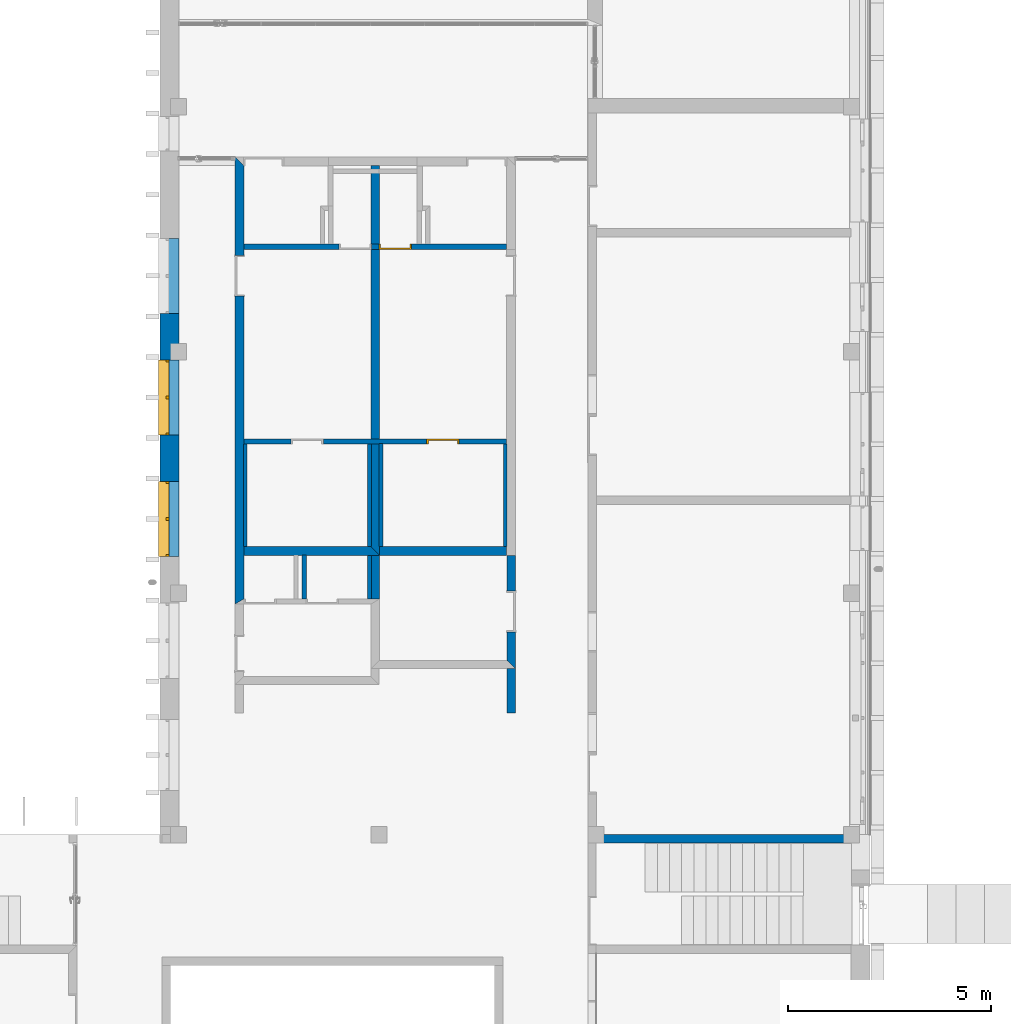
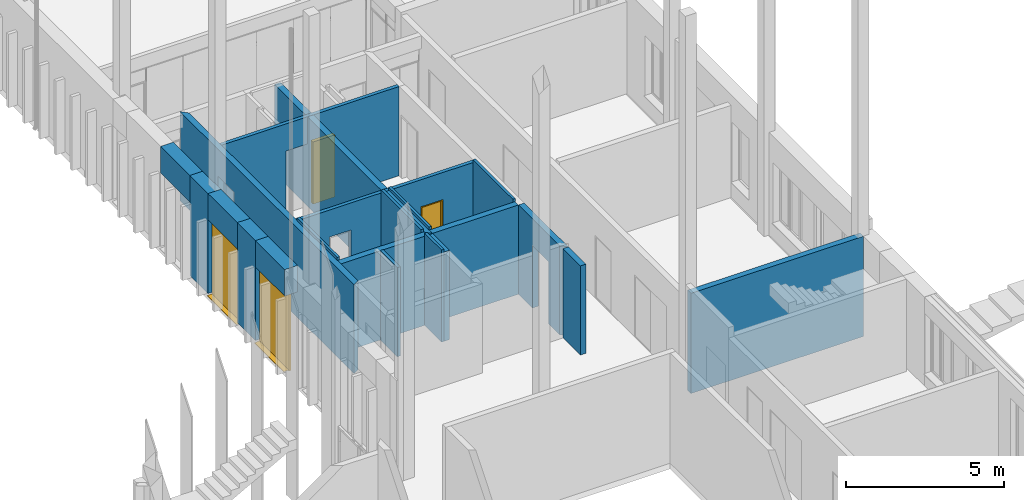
# One storey, part 15 of 89: 21 walls, 2 doors, 2 windows, 9 openings.
"""IFC2X3 building model written with IfcOpenShell, lengths in millimetres."""

from ifc_helpers import new_model, entity, si_unit, converted_unit, derived_unit, money_unit, direction, frame, origin_with_axes, origin_2d_with_axis, place, context, subcontext, project, spatial, polyline, rectangle, outline, extrude, open_shell, faceted_brep, surface_model, source, transform, mapped, material, layer, layer_set, layer_usage, type_object, element, fill, save


model = new_model("IFC2X3")

# Units and contexts
model_context = context("Model", 3, precision=0.01, world=origin_with_axes(), true_north=direction((0.0, 1.0)))
body_context = subcontext(model_context, "Body", "Model", "MODEL_VIEW")
ifc_project = project(units=[si_unit("LENGTHUNIT", "METRE", prefix="MILLI"), si_unit("AREAUNIT", "SQUARE_METRE"), si_unit("VOLUMEUNIT", "CUBIC_METRE"), converted_unit("PLANEANGLEUNIT", "DEGREE", entity("IfcPlaneAngleMeasure", 0.0174532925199), si_unit("PLANEANGLEUNIT", "RADIAN"), dimensions=[0, 0, 0, 0, 0, 0, 0]), si_unit("SOLIDANGLEUNIT", "STERADIAN"), money_unit("EUR"), converted_unit("TIMEUNIT", "Year", entity("IfcTimeMeasure", 31556926.0), si_unit("TIMEUNIT", "SECOND"), dimensions=[0, 0, 1, 0, 0, 0, 0]), si_unit("MASSUNIT", "GRAM", prefix="KILO"), si_unit("THERMODYNAMICTEMPERATUREUNIT", "DEGREE_CELSIUS"), si_unit("LUMINOUSINTENSITYUNIT", "LUMEN"), si_unit("ENERGYUNIT", "JOULE", prefix="MEGA"), derived_unit("THERMALCONDUCTANCEUNIT", [(si_unit("POWERUNIT", "WATT"), 1), (si_unit("LENGTHUNIT", "METRE"), -1), (si_unit("THERMODYNAMICTEMPERATUREUNIT", "KELVIN"), -1)]), derived_unit("SPECIFICHEATCAPACITYUNIT", [(si_unit("ENERGYUNIT", "JOULE"), 1), (si_unit("MASSUNIT", "GRAM", prefix="KILO"), -1), (si_unit("THERMODYNAMICTEMPERATUREUNIT", "KELVIN"), -1)]), derived_unit("MASSDENSITYUNIT", [(si_unit("MASSUNIT", "GRAM", prefix="KILO"), 1), (si_unit("VOLUMEUNIT", "CUBIC_METRE"), -1)])], contexts=[model_context])

# Site, building, storey
site_placement = place(None, origin_with_axes())
site = spatial("IfcSite", under=ifc_project, at=site_placement, Name="Puškini 31, Narva", CompositionType="ELEMENT")
building_placement = place(site_placement, origin_with_axes())
building = spatial("IfcBuilding", under=site, at=building_placement, Name="Narva Riigigümnaasium", CompositionType="ELEMENT")
storey_placement = place(building_placement, frame((0.0, 0.0, -3300.0), z_axis=(0.0, 0.0, 1.0), x_axis=(1.0, 0.0, 0.0)))
storey = spatial("IfcBuildingStorey", under=building, at=storey_placement, Name="1.korrus -3.3", CompositionType="ELEMENT", Elevation=-3300.0)

# Wall, opening
ifc_material_1 = material(Name="fassaadiplaat")
ifc_layer_1 = layer(ifc_material_1, 8.0, ventilated="UNKNOWN")
ifc_material_2 = material(Name="Salto-roovitus")
ifc_layer_2 = layer(ifc_material_2, 50.0, ventilated="UNKNOWN")
ifc_material_3 = material(Name="Salto-PIR soojustus")
ifc_layer_3 = layer(ifc_material_3, 50.0, ventilated="UNKNOWN")
ifc_layer_4 = layer(ifc_material_3, 150.0, ventilated="UNKNOWN")
ifc_material_4 = material(Name="Betoon element")
ifc_layer_5 = layer(ifc_material_4, 200.0, ventilated="UNKNOWN")
ifc_material_5 = material(Name="Salto-siseviimistlus-seinad")
ifc_layer_6 = layer(ifc_material_5, 10.0, ventilated="UNKNOWN")
ifc_layer_set_1 = layer_set([ifc_layer_1, ifc_layer_2, ifc_layer_3, ifc_layer_4, ifc_layer_5, ifc_layer_6], Name="G-VS-01")
ifc_layer_usage_1 = layer_usage(ifc_layer_set_1, "AXIS2", "POSITIVE", -458.0)
wall_type_1 = type_object("IfcWallType", Name="G-VS-01 468", PredefinedType="NOTDEFINED")
wall_1_placement = place(storey_placement, frame((37400.0000002, 238709.212578, 0.0), z_axis=(0.0, 0.0, 1.0), x_axis=(0.0, -1.0, 0.0)))
wall_1 = element("IfcWallStandardCase", 1, at=wall_1_placement, inside=storey, type_object=wall_type_1, material=ifc_layer_usage_1, Name="Välissein", context=body_context, shape_type="SweptSolid", body=[
    extrude(outline(polyline([(0.0, -458.0), (1850.0, -458.0), (1850.0, 10.0), (0.0, 10.0), (0.0, -458.0)])), origin_with_axes(), (0.0, 0.0, 1.0), 3959.99999955),
])
opening_1_placement = place(wall_1_placement, frame((925.0, 0.0, 0.0), z_axis=(0.0, 0.0, 1.0), x_axis=(1.0, 0.0, 0.0)))
element("IfcOpeningElement", 2, at=opening_1_placement, cuts=wall_1, Name="G-A-30", context=body_context, shape_type="SweptSolid", body=[
    extrude(rectangle(XDim=1850.0, YDim=2940.0, at=origin_2d_with_axis()), frame((0.0, -308.0, 1470.0), z_axis=(0.0, 1.0, 0.0), x_axis=(-1.0, 0.0, 0.0)), (0.0, 0.0, 1.0), 786.0),
    extrude(rectangle(XDim=1850.0, YDim=2940.0, at=origin_2d_with_axis()), frame((0.0, -308.0, 1470.0), z_axis=(0.0, -1.0, 0.0), x_axis=(-1.0, 0.0, 0.0)), (0.0, 0.0, 1.0), 618.0),
])

# Wall, opening, window
wall_2_placement = place(storey_placement, frame((37400.0000002, 235709.212578, 0.0), z_axis=(0.0, 0.0, 1.0), x_axis=(0.0, -1.0, 0.0)))
wall_2 = element("IfcWallStandardCase", 3, at=wall_2_placement, inside=storey, type_object=wall_type_1, material=ifc_layer_usage_1, Name="Välissein", context=body_context, shape_type="SweptSolid", body=[
    extrude(outline(polyline([(0.0, -458.0), (1850.0, -458.0), (1850.0, 10.0), (0.0, 10.0), (0.0, -458.0)])), origin_with_axes(), (0.0, 0.0, 1.0), 3959.99999955),
])
opening_2_placement = place(wall_2_placement, frame((925.0, 0.0, 0.0), z_axis=(0.0, 0.0, 1.0), x_axis=(1.0, 0.0, 0.0)))
opening_2 = element("IfcOpeningElement", 4, at=opening_2_placement, cuts=wall_2, Name="G-A-30", context=body_context, shape_type="SweptSolid", body=[
    extrude(rectangle(XDim=1850.0, YDim=2940.0, at=origin_2d_with_axis()), frame((0.0, -308.0, 1470.0), z_axis=(0.0, -1.0, 0.0), x_axis=(1.0, 0.0, 0.0)), (0.0, 0.0, -1.0), 786.0),
    extrude(rectangle(XDim=1850.0, YDim=2940.0, at=origin_2d_with_axis()), frame((0.0, -308.0, 1470.0), z_axis=(0.0, 1.0, 0.0), x_axis=(1.0, 0.0, 0.0)), (0.0, 0.0, -1.0), 618.0),
])
window_style = type_object("IfcWindowStyle", Name="Horizontal Multi-Sash Window 23", ConstructionType="NOTDEFINED", OperationType="DOUBLE_PANEL_VERTICAL", ParameterTakesPrecedence=False, Sizeable=False)
shared_shape_1 = source(origin_with_axes(), body_context, "Body", "SurfaceModel", [
    surface_model("IfcShellBasedSurfaceModel", [(-925.0, -76.0, 50.0), (-925.0, -76.0, 40.0), (925.0, -76.0, 40.0), (925.0, -76.0, 50.0), (-925.0, -255.0, 28.0), (925.0, -255.0, 28.0), (-925.0, -255.0, 8.0), (925.0, -255.0, 8.0), (-925.0, -245.0, 18.0), (925.0, -245.0, 18.0)], [open_shell([[[0, 1, 2, 3]], [[1, 4, 5, 2]], [[4, 6, 7, 5]], [[6, 8, 9, 7]]])]),
    faceted_brep([(-875.0, -75.0, 2890.0), (-875.0, 0.0, 2890.0), (-925.0, 0.0, 2890.0), (-925.0, -75.0, 2890.0), (-875.0, -75.0, 50.0), (-875.0, 0.0, 50.0), (-925.0, 0.0, 50.0), (-925.0, -75.0, 50.0)], [[[0, 1, 2, 3]], [[4, 5, 1, 0]], [[1, 5, 6, 2]], [[3, 2, 6, 7]], [[0, 3, 7, 4]], [[7, 6, 5, 4]]]),
    faceted_brep([(875.0, -75.0, 50.0), (875.0, 0.0, 50.0), (925.0, 0.0, 50.0), (925.0, -75.0, 50.0), (875.0, -75.0, 2890.0), (875.0, 0.0, 2890.0), (925.0, 0.0, 2890.0), (925.0, -75.0, 2890.0)], [[[0, 1, 2, 3]], [[4, 5, 1, 0]], [[1, 5, 6, 2]], [[3, 2, 6, 7]], [[0, 3, 7, 4]], [[7, 6, 5, 4]]]),
    faceted_brep([(875.0, -75.0, 2890.0), (875.0, 0.0, 2890.0), (925.0, 0.0, 2890.0), (925.0, -75.0, 2890.0), (37.5, -75.0, 2890.0), (37.5, 0.0, 2890.0), (-37.5, 0.0, 2890.0), (-875.0, 0.0, 2890.0), (-925.0, 0.0, 2890.0), (-925.0, 0.0, 2940.0), (925.0, 0.0, 2940.0), (925.0, -75.0, 2940.0), (-925.0, -75.0, 2940.0), (-925.0, -75.0, 2890.0), (-875.0, -75.0, 2890.0), (-37.5, -75.0, 2890.0)], [[[0, 1, 2, 3]], [[4, 5, 1, 0]], [[1, 5, 6, 7, 8, 9, 10, 2]], [[3, 2, 10, 11]], [[0, 3, 11, 12, 13, 14, 15, 4]], [[15, 6, 5, 4]], [[14, 7, 6, 15]], [[13, 8, 7, 14]], [[12, 9, 8, 13]], [[11, 10, 9, 12]]]),
    faceted_brep([(37.5, -75.0, 50.0), (37.5, 0.0, 50.0), (-37.5, 0.0, 50.0), (-37.5, -75.0, 50.0), (875.0, -75.0, 50.0), (875.0, 0.0, 50.0), (925.0, 0.0, 50.0), (925.0, 0.0, 0.0), (-925.0, 0.0, 0.0), (-925.0, 0.0, 50.0), (-875.0, 0.0, 50.0), (-875.0, -75.0, 50.0), (-925.0, -75.0, 50.0), (-925.0, -75.0, 0.0), (925.0, -75.0, 0.0), (925.0, -75.0, 50.0)], [[[0, 1, 2, 3]], [[4, 5, 1, 0]], [[1, 5, 6, 7, 8, 9, 10, 2]], [[3, 2, 10, 11]], [[0, 3, 11, 12, 13, 14, 15, 4]], [[15, 6, 5, 4]], [[14, 7, 6, 15]], [[13, 8, 7, 14]], [[12, 9, 8, 13]], [[11, 10, 9, 12]]]),
    faceted_brep([(37.5, -75.0, 50.0), (37.5, 0.0, 50.0), (37.5, 0.0, 2890.0), (37.5, -75.0, 2890.0), (-37.5, -75.0, 50.0), (-37.5, 0.0, 50.0), (-37.5, 0.0, 2890.0), (-37.5, -75.0, 2890.0)], [[[0, 1, 2, 3]], [[4, 5, 1, 0]], [[1, 5, 6, 2]], [[3, 2, 6, 7]], [[0, 3, 7, 4]], [[7, 6, 5, 4]]]),
    surface_model("IfcShellBasedSurfaceModel", [(-875.0, -80.0, 50.0), (-37.5, -80.0, 50.0), (-37.5, -80.0, 2890.0), (-875.0, -80.0, 2890.0)], [open_shell([[[0, 1, 2, 3]]])]),
    surface_model("IfcShellBasedSurfaceModel", [(-875.0, -60.0, 50.0), (-875.0, -60.0, 2890.0), (-37.5, -60.0, 2890.0), (-37.5, -60.0, 50.0)], [open_shell([[[0, 1, 2, 3]]])]),
    surface_model("IfcShellBasedSurfaceModel", [(37.5, -80.0, 50.0), (875.0, -80.0, 50.0), (875.0, -80.0, 2890.0), (37.5, -80.0, 2890.0)], [open_shell([[[0, 1, 2, 3]]])]),
    surface_model("IfcShellBasedSurfaceModel", [(37.5, -60.0, 50.0), (37.5, -60.0, 2890.0), (875.0, -60.0, 2890.0), (875.0, -60.0, 50.0)], [open_shell([[[0, 1, 2, 3]]])]),
])
window_1_placement = place(opening_2_placement, frame((-925.0, 0.0, 0.0), z_axis=(0.0, 0.0, 1.0), x_axis=(1.0, 0.0, 0.0)))
window_1 = element("IfcWindow", 5, at=window_1_placement, inside=storey, type_object=window_style, Name="G-A-30", ObjectType="WINDOW", OverallHeight=2940.0, OverallWidth=1850.0, context=body_context, shape_type="MappedRepresentation", body=[
    mapped(shared_shape_1, transform((925.0, -233.0, 0.0))),
])
fill(opening_2, window_1)

wall_3_placement = place(storey_placement, frame((37400.0000002, 232709.212578, 0.0), z_axis=(0.0, 0.0, 1.0), x_axis=(0.0, -1.0, 0.0)))
wall_3 = element("IfcWallStandardCase", 6, at=wall_3_placement, inside=storey, type_object=wall_type_1, material=ifc_layer_usage_1, Name="Välissein", context=body_context, shape_type="SweptSolid", body=[
    extrude(outline(polyline([(0.0, -458.0), (1850.0, -458.0), (1850.0, 10.0), (0.0, 10.0), (0.0, -458.0)])), origin_with_axes(), (0.0, 0.0, 1.0), 3959.99999955),
])
opening_3_placement = place(wall_3_placement, frame((925.0, 0.0, 0.0), z_axis=(0.0, 0.0, 1.0), x_axis=(1.0, 0.0, 0.0)))
opening_3 = element("IfcOpeningElement", 7, at=opening_3_placement, cuts=wall_3, Name="G-A-30", context=body_context, shape_type="SweptSolid", body=[
    extrude(rectangle(XDim=1850.0, YDim=2940.0, at=origin_2d_with_axis()), frame((0.0, -308.0, 1470.0), z_axis=(0.0, -1.0, 0.0), x_axis=(1.0, 0.0, 0.0)), (0.0, 0.0, -1.0), 786.0),
    extrude(rectangle(XDim=1850.0, YDim=2940.0, at=origin_2d_with_axis()), frame((0.0, -308.0, 1470.0), z_axis=(0.0, 1.0, 0.0), x_axis=(1.0, 0.0, 0.0)), (0.0, 0.0, -1.0), 618.0),
])
window_2_placement = place(opening_3_placement, frame((-925.0, 0.0, 0.0), z_axis=(0.0, 0.0, 1.0), x_axis=(1.0, 0.0, 0.0)))
window_2 = element("IfcWindow", 8, at=window_2_placement, inside=storey, type_object=window_style, Name="G-A-30", ObjectType="WINDOW", OverallHeight=2940.0, OverallWidth=1850.0, context=body_context, shape_type="MappedRepresentation", body=[
    mapped(shared_shape_1, transform((925.0, -233.0, 0.0))),
])
fill(opening_3, window_2)

# Walls
for number, where, z_axis, x_axis in (
    (9, (37400.0000002, 236859.212578, 100.0), (0.0, 0.0, 1.0), (0.0, -1.0, 0.0)),
    (10, (37400.0000002, 233859.212578, 100.0), (0.0, 0.0, 1.0), (0.0, -1.0, 0.0)),
):
    element("IfcWallStandardCase", number, at=place(storey_placement, frame(where, z_axis=z_axis, x_axis=x_axis)), inside=storey, type_object=wall_type_1, material=ifc_layer_usage_1, Name="Välissein", context=body_context, shape_type="SweptSolid", body=[
        extrude(outline(polyline([(0.0, -458.0), (1150.0, -458.0), (1150.0, 10.0), (0.0, 10.0), (0.0, -458.0)])), origin_with_axes(), (0.0, 0.0, 1.0), 3859.99999955),
    ])
ifc_material_6 = material(Name="siseviimistlus-seinad")
ifc_layer_7 = layer(ifc_material_6, 10.0, ventilated="UNKNOWN")
ifc_layer_set_2 = layer_set([ifc_layer_5, ifc_layer_7], Name="G-SS-01-02")
ifc_layer_usage_2 = layer_usage(ifc_layer_set_2, "AXIS2", "POSITIVE", 0.0)
wall_type_2 = type_object("IfcWallType", Name="G-SS-01-02 210", PredefinedType="NOTDEFINED")
wall_4_placement = place(storey_placement, frame((47499.9999993, 223800.0, -310.0), z_axis=(0.0, 0.0, 1.0), x_axis=(1.0, 0.0, 0.0)))
element("IfcWallStandardCase", 11, at=wall_4_placement, inside=storey, type_object=wall_type_2, material=ifc_layer_usage_2, Name="Sisesein", context=body_context, shape_type="SweptSolid", body=[
    extrude(outline(polyline([(199.999993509, 0.0), (6500.00000175, 0.0), (6500.00000175, 210.0), (199.999993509, 210.0), (199.999993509, 0.0)])), origin_with_axes(), (0.0, 0.0, 1.0), 3870.0),
])

# Wall, openings, door
ifc_layer_8 = layer(ifc_material_6, 15.0, ventilated="UNKNOWN")
ifc_material_7 = material(Name="kergbetoonplokk")
ifc_layer_9 = layer(ifc_material_7, 100.0, ventilated="UNKNOWN")
ifc_layer_set_3 = layer_set([ifc_layer_8, ifc_layer_9, ifc_layer_8], Name="G-SS-05-03")
ifc_layer_usage_3 = layer_usage(ifc_layer_set_3, "AXIS2", "POSITIVE", -15.0)
wall_type_3 = type_object("IfcWallType", Name="G-SS-05-03 130", PredefinedType="NOTDEFINED")
wall_5_placement = place(storey_placement, frame((39000.0000003, 238450.0, 0.0), z_axis=(0.0, 0.0, 1.0), x_axis=(1.0, 0.0, 0.0)))
wall_5 = element("IfcWallStandardCase", 12, at=wall_5_placement, inside=storey, type_object=wall_type_3, material=ifc_layer_usage_3, Name="Sisesein", context=body_context, shape_type="SweptSolid", body=[
    extrude(outline(polyline([(15.0, -15.0), (6494.99999989, -15.0), (6494.99999989, 115.0), (15.0, 115.0), (15.0, -15.0)])), origin_with_axes(), (0.0, 0.0, 1.0), 3445.0),
])
opening_4_placement = place(wall_5_placement, frame((3749.99999992, 0.0, 0.0), z_axis=(0.0, 0.0, 1.0), x_axis=(1.0, 0.0, 0.0)))
opening_4 = element("IfcOpeningElement", 13, at=opening_4_placement, cuts=wall_5, Name="G-SU-048", context=body_context, shape_type="SweptSolid", body=[
    extrude(rectangle(XDim=799.999999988, YDim=2400.0, at=origin_2d_with_axis()), frame((0.0, 130.0, 1200.0), z_axis=(0.0, -1.0, 0.0), x_axis=(-1.0, 0.0, 0.0)), (0.0, 0.0, 1.0), 390.0),
])
opening_5_placement = place(wall_5_placement, frame((2759.99999993, 0.0, 0.0), z_axis=(0.0, 0.0, 1.0), x_axis=(1.0, 0.0, 0.0)))
element("IfcOpeningElement", 14, at=opening_5_placement, cuts=wall_5, Name="G-SU-041", context=body_context, shape_type="SweptSolid", body=[
    extrude(rectangle(XDim=799.999999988, YDim=2400.0, at=origin_2d_with_axis()), frame((0.0, 130.0, 1200.0), z_axis=(0.0, 1.0, 0.0), x_axis=(1.0, 0.0, 0.0)), (0.0, 0.0, -1.0), 390.0),
])
door_style = type_object("IfcDoorStyle", Name="Door 23", ConstructionType="NOTDEFINED", OperationType="SINGLE_SWING_RIGHT", ParameterTakesPrecedence=False, Sizeable=False)
shared_shape_2 = source(origin_with_axes(), body_context, "Body", "Brep", [
    faceted_brep([(-359.999999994, -40.0, 0.0), (-359.999999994, -40.0, 2360.0), (-359.999999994, -130.0, 2360.0), (-359.999999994, -130.0, 0.0), (-371.999999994, -40.0, 2360.0), (-371.999999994, -40.0, 0.0), (-371.999999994, 0.0, 2360.0), (-399.999999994, 0.0, 2360.0), (-399.999999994, -130.0, 2360.0), (-399.999999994, -130.0, 0.0), (-399.999999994, 0.0, 0.0), (-371.999999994, 0.0, 0.0)], [[[0, 1, 2, 3]], [[4, 1, 0, 5]], [[4, 6, 7, 8, 2, 1]], [[3, 2, 8, 9]], [[5, 0, 3, 9, 10, 11]], [[6, 4, 5, 11]], [[6, 11, 10, 7]], [[10, 9, 8, 7]]]),
    faceted_brep([(371.999999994, -40.0, 2360.0), (359.999999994, -40.0, 2360.0), (359.999999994, -130.0, 2360.0), (399.999999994, -130.0, 2360.0), (399.999999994, 0.0, 2360.0), (371.999999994, 0.0, 2360.0), (371.999999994, -40.0, 0.0), (359.999999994, -40.0, 0.0), (359.999999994, -130.0, 0.0), (399.999999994, -130.0, 0.0), (399.999999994, 0.0, 0.0), (371.999999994, 0.0, 0.0)], [[[0, 1, 2, 3, 4, 5]], [[1, 0, 6, 7]], [[1, 7, 8, 2]], [[3, 2, 8, 9]], [[4, 3, 9, 10]], [[11, 5, 4, 10]], [[0, 5, 11, 6]], [[6, 11, 10, 9, 8, 7]]]),
    faceted_brep([(-371.999999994, 0.0, 2372.0), (-371.999999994, 0.0, 2360.0), (-399.999999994, 0.0, 2360.0), (-399.999999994, 0.0, 2400.0), (399.999999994, 0.0, 2400.0), (399.999999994, 0.0, 2360.0), (371.999999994, 0.0, 2360.0), (371.999999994, 0.0, 2372.0), (-371.999999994, -40.0, 2372.0), (-371.999999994, -40.0, 2360.0), (-359.999999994, -40.0, 2360.0), (-359.999999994, -130.0, 2360.0), (-399.999999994, -130.0, 2360.0), (-399.999999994, -130.0, 2400.0), (399.999999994, -130.0, 2400.0), (399.999999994, -130.0, 2360.0), (371.999999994, -40.0, 2360.0), (359.999999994, -130.0, 2360.0), (359.999999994, -40.0, 2360.0), (371.999999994, -40.0, 2372.0)], [[[0, 1, 2, 3, 4, 5, 6, 7]], [[1, 0, 8, 9]], [[9, 10, 11, 12, 2, 1]], [[2, 12, 13, 3]], [[3, 13, 14, 4]], [[4, 14, 15, 5]], [[16, 6, 5, 15, 17, 18]], [[7, 6, 16, 19]], [[0, 7, 19, 8]], [[16, 18, 10, 9, 8, 19]], [[10, 18, 17, 11]], [[17, 15, 14, 13, 12, 11]]]),
    faceted_brep([(371.999999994, 0.0, 0.0), (371.999999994, -40.0, 0.0), (-371.999999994, -40.0, 0.0), (-371.999999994, 0.0, 0.0), (371.999999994, 0.0, 2372.0), (371.999999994, -40.0, 2372.0), (-371.999999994, -40.0, 2372.0), (-371.999999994, 0.0, 2372.0)], [[[0, 1, 2, 3]], [[4, 5, 1, 0]], [[1, 5, 6, 2]], [[3, 2, 6, 7]], [[0, 3, 7, 4]], [[7, 6, 5, 4]]]),
])
door_1_placement = place(opening_4_placement, frame((399.999999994, 0.0, 0.0), z_axis=(0.0, 0.0, 1.0), x_axis=(-1.0, 0.0, 0.0)))
door_1 = element("IfcDoor", 15, at=door_1_placement, inside=storey, type_object=door_style, Name="G-SU-048", ObjectType="DOOR", OverallHeight=2400.0, OverallWidth=800.0, context=body_context, shape_type="MappedRepresentation", body=[
    mapped(shared_shape_2, transform((399.999999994, 15.0, 0.0))),
])
fill(opening_4, door_1)

ifc_layer_usage_4 = layer_usage(ifc_layer_set_3, "AXIS2", "NEGATIVE", 15.0)
wall_6_placement = place(storey_placement, frame((39000.0000003, 233750.000001, 0.0), z_axis=(0.0, 0.0, 1.0), x_axis=(1.0, 0.0, 0.0)))
wall_6 = element("IfcWallStandardCase", 16, at=wall_6_placement, inside=storey, type_object=wall_type_3, material=ifc_layer_usage_4, Name="Sisesein", context=body_context, shape_type="SweptSolid", body=[
    extrude(outline(polyline([(15.0, -115.0), (6494.99998706, -115.0), (6494.99998741, 15.0), (15.0, 15.0), (15.0, -115.0)])), origin_with_axes(), (0.0, 0.0, 1.0), 3445.0),
])
opening_6_placement = place(wall_6_placement, frame((1575.0, 0.0, 0.0), z_axis=(0.0, 0.0, 1.0), x_axis=(1.0, 0.0, 0.0)))
element("IfcOpeningElement", 17, at=opening_6_placement, cuts=wall_6, Name="G-SU-042", context=body_context, shape_type="SweptSolid", body=[
    extrude(rectangle(XDim=799.999999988, YDim=2400.0, at=origin_2d_with_axis()), frame((0.0, 130.0, 1200.0), z_axis=(0.0, 1.0, 0.0), x_axis=(-1.0, 0.0, 0.0)), (0.0, 0.0, -1.0), 390.0),
])
opening_7_placement = place(wall_6_placement, frame((4924.99999989, 0.0, 0.0), z_axis=(0.0, 0.0, 1.0), x_axis=(1.0, 0.0, 0.0)))
opening_7 = element("IfcOpeningElement", 18, at=opening_7_placement, cuts=wall_6, Name="G-SU-049", context=body_context, shape_type="SweptSolid", body=[
    extrude(rectangle(XDim=799.999999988, YDim=2400.0, at=origin_2d_with_axis()), frame((0.0, -130.0, 1200.0), z_axis=(0.0, 1.0, 0.0), x_axis=(1.0, 0.0, 0.0)), (0.0, 0.0, 1.0), 390.0),
])
door_2_placement = place(opening_7_placement, frame((-399.999999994, 0.0, 0.0), z_axis=(0.0, 0.0, 1.0), x_axis=(1.0, 0.0, 0.0)))
door_2 = element("IfcDoor", 19, at=door_2_placement, inside=storey, type_object=door_style, Name="G-SU-049", ObjectType="DOOR", OverallHeight=2400.0, OverallWidth=800.0, context=body_context, shape_type="MappedRepresentation", body=[
    mapped(shared_shape_2, transform((399.999999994, 15.0, 0.0))),
])
fill(opening_7, door_2)

# Wall, opening
ifc_material_8 = material(Name="õõnes betoonplokk")
ifc_layer_10 = layer(ifc_material_8, 190.0, ventilated="UNKNOWN")
ifc_layer_set_4 = layer_set([ifc_layer_8, ifc_layer_10, ifc_layer_7], Name="G-SS-02-03")
ifc_layer_usage_5 = layer_usage(ifc_layer_set_4, "AXIS2", "POSITIVE", -15.0)
wall_type_4 = type_object("IfcWallType", Name="G-SS-02-03 215", PredefinedType="NOTDEFINED")
wall_7_placement = place(storey_placement, frame((39000.0000003, 229800.000019, 0.0), z_axis=(0.0, 0.0, 1.0), x_axis=(0.0, 1.0, 0.0)))
wall_7 = element("IfcWallStandardCase", 20, at=wall_7_placement, inside=storey, type_object=wall_type_4, material=ifc_layer_usage_5, Name="Sisesein", context=body_context, shape_type="SweptSolid", body=[
    extrude(outline(polyline([(15.0, -15.0), (10694.9999816, -15.0), (10909.9999816, 200.0), (-110.0, 200.0), (15.0, -15.0)])), origin_with_axes(), (0.0, 0.0, 1.0), 3445.0),
])
opening_8_placement = place(wall_7_placement, frame((7985.21255932, 0.0, 0.0), z_axis=(0.0, 0.0, 1.0), x_axis=(1.0, 0.0, 0.0)))
element("IfcOpeningElement", 21, at=opening_8_placement, cuts=wall_7, Name="G-SU-040", context=body_context, shape_type="SweptSolid", body=[
    extrude(rectangle(XDim=1000.0, YDim=2400.0, at=origin_2d_with_axis()), frame((0.0, -215.0, 1200.0), z_axis=(0.0, -1.0, 0.0), x_axis=(1.0, 0.0, 0.0)), (0.0, 0.0, -1.0), 645.0),
    extrude(rectangle(XDim=1060.0, YDim=2430.0, at=origin_2d_with_axis()), frame((0.0, -15.0, 1215.0), z_axis=(0.0, -1.0, 0.0), x_axis=(1.0, 0.0, 0.0)), (0.0, 0.0, 1.0), 215.0),
    extrude(rectangle(XDim=1056.0, YDim=2428.0, at=origin_2d_with_axis()), frame((0.0, 200.0, 1214.0), z_axis=(0.0, 1.0, 0.0), x_axis=(1.0, 0.0, 0.0)), (0.0, 0.0, 1.0), 215.0),
])

# Walls
ifc_layer_usage_6 = layer_usage(ifc_layer_set_4, "AXIS2", "NEGATIVE", 15.0)
wall_8_placement = place(storey_placement, frame((42350.0000002, 231090.000001, 0.0), z_axis=(0.0, 0.0, 1.0), x_axis=(1.0, 0.0, 0.0)))
element("IfcWallStandardCase", 22, at=wall_8_placement, inside=storey, type_object=wall_type_4, material=ifc_layer_usage_6, Name="Sisesein", context=body_context, shape_type="SweptSolid", body=[
    extrude(outline(polyline([(15.0, -200.0), (3144.9999798, -200.0), (3144.99998037, 15.0), (15.0, 15.0), (15.0, -200.0)])), origin_with_axes(), (0.0, 0.0, 1.0), 3445.0),
])
ifc_layer_set_5 = layer_set([ifc_layer_10, ifc_layer_7], Name="G-SS-02-01")
ifc_layer_usage_7 = layer_usage(ifc_layer_set_5, "AXIS2", "NEGATIVE", 0.0)
wall_type_5 = type_object("IfcWallType", Name="G-SS-02-01 200", PredefinedType="NOTDEFINED")
wall_9_placement = place(storey_placement, frame((42160.0000002, 229800.000019, 0.0), z_axis=(0.0, 0.0, 1.0), x_axis=(0.0, 1.0, 0.0)))
element("IfcWallStandardCase", 23, at=wall_9_placement, inside=storey, type_object=wall_type_5, material=ifc_layer_usage_7, Name="Sisesein", context=body_context, shape_type="SweptSolid", body=[
    extrude(outline(polyline([(15.0, -200.0), (1084.99998157, -200.0), (1084.99998157, 0.0), (15.0, 0.0), (15.0, -200.0)])), origin_with_axes(), (0.0, 0.0, 1.0), 3445.0),
])
wall_10_placement = place(storey_placement, frame((45510.0000001, 227000.0, 0.0), z_axis=(0.0, 0.0, 1.0), x_axis=(0.0, 1.0, 0.0)))
element("IfcWallStandardCase", 24, at=wall_10_placement, inside=storey, type_object=wall_type_5, material=ifc_layer_usage_7, Name="Sisesein", context=body_context, shape_type="SweptSolid", body=[
    extrude(outline(polyline([(0.0, -200.0), (1100.00000027, -200.0), (1100.00000027, 0.0), (0.0, 0.0), (0.0, -200.0)])), origin_with_axes(), (0.0, 0.0, 1.0), 3445.0),
])
ifc_layer_set_6 = layer_set([ifc_layer_8, ifc_layer_10, ifc_layer_8], Name="G-SS-02-04")
ifc_layer_usage_8 = layer_usage(ifc_layer_set_6, "AXIS2", "NEGATIVE", 15.0)
wall_type_6 = type_object("IfcWallType", Name="G-SS-02-04 220", PredefinedType="NOTDEFINED")
wall_11_placement = place(storey_placement, frame((39000.0000003, 231090.000001, 0.0), z_axis=(0.0, 0.0, 1.0), x_axis=(1.0, 0.0, 0.0)))
element("IfcWallStandardCase", 25, at=wall_11_placement, inside=storey, type_object=wall_type_6, material=ifc_layer_usage_8, Name="Sisesein", context=body_context, shape_type="SweptSolid", body=[
    extrude(outline(polyline([(15.0, -205.0), (3364.99999992, -205.0), (3144.99999992, 15.0), (15.0, 15.0), (15.0, -205.0)])), origin_with_axes(), (0.0, 0.0, 1.0), 3445.0),
])
ifc_layer_usage_9 = layer_usage(ifc_layer_set_6, "AXIS2", "POSITIVE", -15.0)
wall_12_placement = place(storey_placement, frame((42350.0000002, 231090.000001, 0.0), z_axis=(0.0, 0.0, 1.0), x_axis=(0.0, 1.0, 0.0)))
element("IfcWallStandardCase", 26, at=wall_12_placement, inside=storey, type_object=wall_type_6, material=ifc_layer_usage_9, Name="Sisesein", context=body_context, shape_type="SweptSolid", body=[
    extrude(outline(polyline([(-205.0, -15.0), (9420.00000007, -15.0), (9420.00000007, 205.0), (15.0, 205.0), (-205.0, -15.0)])), origin_with_axes(), (0.0, 0.0, 1.0), 3445.0),
])
ifc_layer_set_7 = layer_set([ifc_layer_8, ifc_layer_9], Name="G-SS-05-02")
ifc_layer_usage_10 = layer_usage(ifc_layer_set_7, "AXIS2", "POSITIVE", -15.0)
wall_type_7 = type_object("IfcWallType", Name="G-SS-05-02 115", PredefinedType="NOTDEFINED")
wall_13_placement = place(storey_placement, frame((40549.9999997, 229800.000019, 0.0), z_axis=(0.0, 0.0, 1.0), x_axis=(0.0, 1.0, 0.0)))
element("IfcWallStandardCase", 27, at=wall_13_placement, inside=storey, type_object=wall_type_7, material=ifc_layer_usage_10, Name="Sisesein", context=body_context, shape_type="SweptSolid", body=[
    extrude(outline(polyline([(15.0, -15.0), (1099.99998157, -15.0), (1099.99998157, 100.0), (15.0, 100.0), (15.0, -15.0)])), origin_with_axes(), (0.0, 0.0, 1.0), 3445.0),
])

# Wall, opening
ifc_layer_set_8 = layer_set([ifc_layer_7, ifc_layer_10, ifc_layer_7], Name="G-SS-02")
ifc_layer_usage_11 = layer_usage(ifc_layer_set_8, "AXIS2", "POSITIVE", -10.0)
wall_type_8 = type_object("IfcWallType", Name="G-SS-02 210", PredefinedType="NOTDEFINED")
wall_14_placement = place(storey_placement, frame((45700.0000001, 228100.0, 0.0), z_axis=(0.0, 0.0, 1.0), x_axis=(0.0, 1.0, 0.0)))
wall_14 = element("IfcWallStandardCase", 28, at=wall_14_placement, inside=storey, type_object=wall_type_8, material=ifc_layer_usage_11, Name="Sisesein", context=body_context, shape_type="SweptSolid", body=[
    extrude(outline(polyline([(0.0, -10.0), (2790.00000003, -10.0), (2790.00000003, 200.0), (200.0, 200.0), (0.0, -10.0)])), origin_with_axes(), (0.0, 0.0, 1.0), 3445.0),
])
opening_9_placement = place(wall_14_placement, frame((1405.23674815, 0.0, 0.0), z_axis=(0.0, 0.0, 1.0), x_axis=(1.0, 0.0, 0.0)))
element("IfcOpeningElement", 29, at=opening_9_placement, cuts=wall_14, Name="G-SU-050", context=body_context, shape_type="SweptSolid", body=[
    extrude(rectangle(XDim=1000.00000009, YDim=2400.0, at=origin_2d_with_axis()), frame((0.0, 210.0, 1200.0), z_axis=(0.0, 1.0, 0.0), x_axis=(-1.0, 0.0, 0.0)), (0.0, 0.0, -1.0), 630.0),
    extrude(rectangle(XDim=1060.00000009, YDim=2430.0, at=origin_2d_with_axis()), frame((0.0, 200.0, 1215.0), z_axis=(0.0, 1.0, 0.0), x_axis=(-1.0, 0.0, 0.0)), (0.0, 0.0, 1.0), 210.0),
    extrude(rectangle(XDim=1056.00000009, YDim=2428.0, at=origin_2d_with_axis()), frame((0.0, -10.0, 1214.0), z_axis=(0.0, -1.0, 0.0), x_axis=(-1.0, 0.0, 0.0)), (0.0, 0.0, 1.0), 210.0),
])

# Walls
ifc_material_9 = material(Name="Kipsplaat")
ifc_layer_11 = layer(ifc_material_9, 12.5, ventilated="UNKNOWN")
ifc_material_10 = material(Name="Karkass")
ifc_layer_12 = layer(ifc_material_10, 66.0, ventilated="UNKNOWN")
ifc_layer_set_9 = layer_set([ifc_layer_8, ifc_layer_11, ifc_layer_12], Name="G-SS-12")
ifc_layer_usage_12 = layer_usage(ifc_layer_set_9, "AXIS2", "NEGATIVE", 15.0)
wall_type_9 = type_object("IfcWallType", Name="G-SS-12 94", PredefinedType="NOTDEFINED")
wall_15_placement = place(storey_placement, frame((42081.5000002, 229800.000019, 0.0), z_axis=(0.0, 0.0, 1.0), x_axis=(0.0, 1.0, 0.0)))
element("IfcWallStandardCase", 30, at=wall_15_placement, inside=storey, type_object=wall_type_9, material=ifc_layer_usage_12, Name="Sisesein", context=body_context, shape_type="SweptSolid", body=[
    extrude(outline(polyline([(15.0, -78.5), (1084.99998157, -78.5), (1084.99998157, 15.0), (15.0, 15.0), (15.0, -78.5)])), origin_with_axes(), (0.0, 0.0, 1.0), 3560.0),
])
wall_16_placement = place(storey_placement, frame((42081.5000002, 231090.000001, 0.0), z_axis=(0.0, 0.0, 1.0), x_axis=(0.0, 1.0, 0.0)))
element("IfcWallStandardCase", 31, at=wall_16_placement, inside=storey, type_object=wall_type_9, material=ifc_layer_usage_12, Name="Sisesein", context=body_context, shape_type="SweptSolid", body=[
    extrude(outline(polyline([(15.0, -78.5), (2545.00000006, -78.5), (2545.00000006, 15.0), (15.0, 15.0), (15.0, -78.5)])), origin_with_axes(), (0.0, 0.0, 1.0), 3560.0),
])
wall_17_placement = place(storey_placement, frame((39078.5000003, 233750.000001, 0.0), z_axis=(0.0, 0.0, 1.0), x_axis=(0.0, -1.0, 0.0)))
element("IfcWallStandardCase", 32, at=wall_17_placement, inside=storey, type_object=wall_type_9, material=ifc_layer_usage_12, Name="Sisesein", context=body_context, shape_type="SweptSolid", body=[
    extrude(outline(polyline([(115.0, -78.5), (2645.00000006, -78.5), (2645.00000006, 15.0), (115.0, 15.0), (115.0, -78.5)])), origin_with_axes(), (0.0, 0.0, 1.0), 3560.0),
])
wall_18_placement = place(storey_placement, frame((45431.49998, 231090.000001, 0.0), z_axis=(0.0, 0.0, 1.0), x_axis=(0.0, 1.0, 0.0)))
element("IfcWallStandardCase", 33, at=wall_18_placement, inside=storey, type_object=wall_type_9, material=ifc_layer_usage_12, Name="Sisesein", context=body_context, shape_type="SweptSolid", body=[
    extrude(outline(polyline([(15.0, -78.5), (2545.00000006, -78.5), (2545.00000006, 15.0), (15.0, 15.0), (15.0, -78.5)])), origin_with_axes(), (0.0, 0.0, 1.0), 3560.0),
])
wall_19_placement = place(storey_placement, frame((42428.5000002, 233650.000001, 0.0), z_axis=(0.0, 0.0, 1.0), x_axis=(0.0, -1.0, 0.0)))
element("IfcWallStandardCase", 34, at=wall_19_placement, inside=storey, type_object=wall_type_9, material=ifc_layer_usage_12, Name="Sisesein", context=body_context, shape_type="SweptSolid", body=[
    extrude(outline(polyline([(0.0, -78.5), (2545.00000006, -78.5), (2545.00000006, 15.0), (0.0, 15.0), (0.0, -78.5)])), origin_with_axes(), (0.0, 0.0, 1.0), 3560.0),
])

save(model, "model.ifc")
